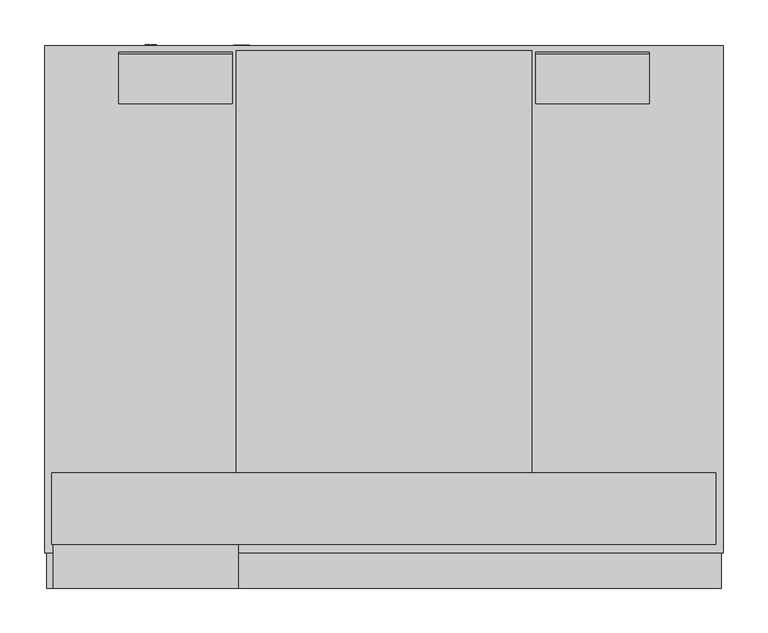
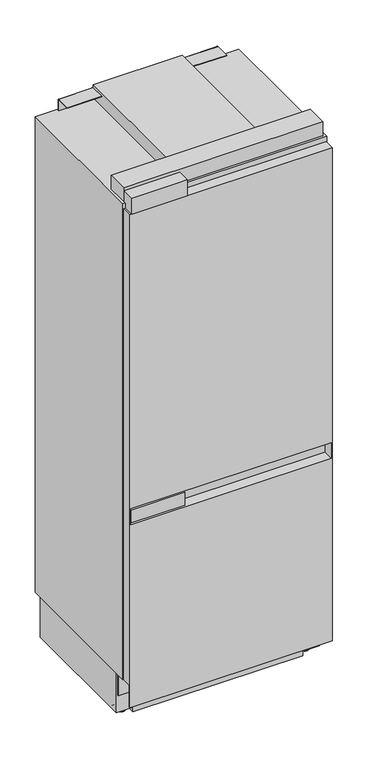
"""IFC4 building model written with IfcOpenShell, lengths in millimetres: proxy geometry, 12866550_EU2_KFMC3834_L : 38383410_EU2_12866550_KFMC3834_L."""

from ifc_helpers import new_model, si_unit, point, frame, frame_2d, origin, place, context, project, spatial, polyline, circle_curve, trimmed, segment, composite_curve, outline, extrude, faceted_brep, source, transform, mapped, element, save
from ifc_brep_helpers import plane_surface, cylinder_surface, advanced_brep


def specialty_equipment_1caa518f(model_context):
    return source(origin(), model_context, "Body", "SolidModel", [
        extrude(outline(polyline([(-172.460022, 19.5805006), (-372.460022, 19.5805006), (-372.460022, 59.5250826), (-172.460022, 59.5250826), (-172.460022, 19.5805006)])), frame((0.0, 0.0, 828.4), z_axis=(0.0, 0.0, 1.0), x_axis=(1.0, 0.0, 0.0)), (0.0, 0.0, 1.0), 50.4801375),
        extrude(outline(polyline([(-163.5444763, 19.5805006), (-371.4, 19.5805006), (-371.4, 69.0), (-163.5444763, 69.0), (-163.5444763, 19.5805006)])), frame((0.0, 0.0, 2048.9273907), z_axis=(0.0, 0.0, 1.0), x_axis=(1.0, 0.0, 0.0)), (0.0, 0.0, 1.0), 63.9078998),
        faceted_brep([(378.4, 19.5805006, 2048.9273907), (378.4, 19.5805006, 100.0958717), (378.4, 22.474204, 100.0958717), (378.4, 22.474204, 187.4499998), (378.4, 95.0, 187.4499998), (378.4, 95.0, 100.0958717), (378.4, 99.0001378, 100.0958717), (378.4, 99.0001378, 2048.9273907), (-378.4, 19.5805006, 2048.9273907), (-378.4, 99.0001378, 2048.9273907), (-378.4, 99.0001378, 100.0958717), (-378.4, 95.0, 100.0958717), (-378.4, 95.0, 187.4499998), (-378.4, 22.474204, 187.4499998), (-378.4, 22.474204, 100.0958717), (-378.4, 19.5805006, 100.0958717), (-374.4, 19.5805006, 884.8801375), (374.4, 19.5805006, 884.8801375), (374.4, 19.5805006, 822.4), (-374.4, 19.5805006, 822.4), (374.4, 93.7083842, 884.8801375), (-374.4, 93.7083842, 884.8801375), (-374.4, 93.7083842, 822.4), (374.4, 93.7083842, 822.4)], [[[0, 1, 2, 3, 4, 5, 6, 7]], [[8, 9, 10, 11, 12, 13, 14, 15]], [[1, 0, 8, 15], [16, 17, 18, 19]], [[1, 15, 14, 2]], [[10, 6, 5, 11]], [[7, 6, 10, 9]], [[0, 7, 9, 8]], [[13, 3, 2, 14]], [[4, 12, 11, 5]], [[3, 13, 12, 4]], [[20, 21, 22, 23]], [[21, 20, 17, 16]], [[22, 21, 16, 19]], [[23, 22, 19, 18]], [[20, 23, 18, 17]]]),
        extrude(outline(composite_curve([segment(trimmed(circle_curve(frame_2d((619.3046941, 2111.8999939)), 2.5), [point((619.3046941, 2114.3999939))], [point((621.8046941, 2111.8999939))], False, "CARTESIAN"), True, "CONTINUOUS"), segment(polyline([(621.8046941, 2111.8999939), (621.8046941, 2068.8999998), (619.3046941, 2068.8999998), (619.3046941, 2112.2000427), (563.7854458, 2112.2000427), (563.7854458, 2114.3999939), (619.3046941, 2114.3999939)]), True, "CONTINUOUS")], self_intersect=False)), frame((170.0666274, 0.0, 0.0), z_axis=(1.0, 0.0, 0.0), x_axis=(0.0, 1.0, 0.0)), (0.0, 0.0, 1.0), 127.807223),
        extrude(outline(composite_curve([segment(trimmed(circle_curve(frame_2d((619.3046941, 2111.8999939)), 2.5), [point((619.3046941, 2114.3999939))], [point((621.8046941, 2111.8999939))], False, "CARTESIAN"), True, "CONTINUOUS"), segment(polyline([(621.8046941, 2111.8999939), (621.8046941, 2068.8999998), (619.3046941, 2068.8999998), (619.3046941, 2112.2000427), (563.7854458, 2112.2000427), (563.7854458, 2114.3999939), (619.3046941, 2114.3999939)]), True, "CONTINUOUS")], self_intersect=False)), frame((-297.8738504, 0.0, 0.0), z_axis=(1.0, 0.0, 0.0), x_axis=(0.0, 1.0, 0.0)), (0.0, 0.0, 1.0), 127.807223),
        faceted_brep([(381.0, 628.6068181, 2068.8999998), (-381.0, 628.6068181, 2068.8999998), (-381.0, 59.5250826, 2068.8999998), (381.0, 59.5250826, 2068.8999998), (381.0, 628.6068181, 187.4499998), (381.0, 59.5250826, 187.4499998), (-381.0, 59.5250826, 187.4499998), (-381.0, 628.6068181, 187.4499998), (-332.0265198, 59.5250826, 1999.0), (332.0265198, 59.5250826, 1999.0), (332.0265198, 59.5250826, 920.0), (-332.0265198, 59.5250826, 920.0), (-332.0265198, 59.5250826, 777.0), (332.0265198, 59.5250826, 777.0), (332.0265198, 59.5250826, 250.0), (-332.0265198, 59.5250826, 250.0), (332.0265198, 551.4500008, 1999.0), (-332.0265198, 551.4500008, 1999.0), (-332.0265198, 551.4500008, 920.0), (332.0265198, 551.4500008, 920.0), (332.0265198, 535.9500008, 777.0), (-332.0265198, 535.9500008, 777.0), (-332.0265198, 535.9500008, 250.0), (332.0265198, 535.9500008, 250.0)], [[[0, 1, 2, 3]], [[4, 5, 6, 7]], [[0, 3, 5, 4]], [[3, 2, 6, 5], [8, 9, 10, 11], [12, 13, 14, 15]], [[2, 1, 7, 6]], [[1, 0, 4, 7]], [[16, 17, 18, 19]], [[17, 16, 9, 8]], [[18, 17, 8, 11]], [[19, 18, 11, 10]], [[16, 19, 10, 9]], [[20, 21, 22, 23]], [[21, 20, 13, 12]], [[22, 21, 12, 15]], [[23, 22, 15, 14]], [[20, 23, 14, 13]]]),
        advanced_brep(
        [(-379.5, 599.2160102, 187.4499998), (379.5, 599.2160102, 187.4499998), (379.5, 599.2160102, 27.500001), (317.3898346, 599.2160102, 27.500001), (317.3898346, 599.2160102, 10.4), (-317.3898346, 599.2160102, 10.4), (-317.3898346, 599.2160102, 27.500001), (-379.5, 599.2160102, 27.500001), (379.5, 104.7548719, 187.4499998), (-379.5, 104.7548719, 187.4499998), (-379.5, 104.7548719, 27.500001), (-317.3898346, 104.7548719, 27.500001), (-317.3898346, 104.7548719, 10.4), (317.3898346, 104.7548719, 10.4), (317.3898346, 104.7548719, 27.500001), (379.5, 104.7548719, 27.500001), (-337.4950732, 165.898232, 25.006546), (-337.4950732, 215.911324, 25.006546), (-337.4950732, 215.7866997, 27.500001), (-337.4950732, 166.0228563, 27.500001), (-337.4950732, 488.6286933, 25.006546), (-337.4950732, 538.6417854, 25.006546), (-337.4950732, 538.517161, 27.500001), (-337.4950732, 488.7533177, 27.500001), (-355.0, 215.911324, 25.006546), (-355.0, 165.898232, 25.006546), (-355.0, 166.0228563, 27.500001), (-355.0, 215.7866997, 27.500001), (-355.0, 538.6417854, 25.006546), (-355.0, 488.6286933, 25.006546), (-355.0, 488.7533177, 27.500001), (-355.0, 538.517161, 27.500001), (355.0, 165.898139, 25.006546), (355.0, 215.911231, 25.006546), (355.0, 215.7866067, 27.500001), (355.0, 166.0227633, 27.500001), (355.0, 488.6286933, 25.006546), (355.0, 538.6417854, 25.006546), (355.0, 538.517161, 27.500001), (355.0, 488.7533177, 27.500001), (337.4950732, 215.911231, 25.006546), (337.4950732, 165.898139, 25.006546), (337.4950732, 166.0227633, 27.500001), (337.4950732, 215.7866067, 27.500001), (337.4950732, 538.6417854, 25.006546), (337.4950732, 488.6286933, 25.006546), (337.4950732, 488.7533177, 27.500001), (337.4950732, 538.517161, 27.500001)],
        [
            (0, 1),
            (1, 2),
            (2, 3),
            (3, 4),
            (4, 5),
            (5, 6),
            (6, 7),
            (7, 0),
            (8, 9),
            (9, 10),
            (10, 11),
            (11, 12),
            (12, 13),
            (13, 14),
            (14, 15),
            (15, 8),
            (0, 9),
            (8, 1),
            (7, 10),
            (4, 13),
            (12, 5),
            (15, 2),
            (16, 17, circle_curve(frame((-337.4950732, 190.904778, 25.006546), z_axis=(1.0, 0.0, 0.0), x_axis=(0.0, 1.0, 0.0)), 25.006546)),
            (17, 18, circle_curve(frame((-337.4950732, 190.904778, 25.006546), z_axis=(1.0, 0.0, 0.0), x_axis=(0.0, 1.0, 0.0)), 25.006546)),
            (18, 19),
            (19, 16, circle_curve(frame((-337.4950732, 190.904778, 25.006546), z_axis=(1.0, 0.0, 0.0), x_axis=(0.0, 1.0, 0.0)), 25.006546)),
            (20, 21, circle_curve(frame((-337.4950732, 513.6352393, 25.006546), z_axis=(1.0, 0.0, 0.0), x_axis=(0.0, 1.0, 0.0)), 25.006546)),
            (21, 22, circle_curve(frame((-337.4950732, 513.6352393, 25.006546), z_axis=(1.0, 0.0, 0.0), x_axis=(0.0, 1.0, 0.0)), 25.006546)),
            (22, 23),
            (23, 20, circle_curve(frame((-337.4950732, 513.6352393, 25.006546), z_axis=(1.0, 0.0, 0.0), x_axis=(0.0, 1.0, 0.0)), 25.006546)),
            (24, 25, circle_curve(frame((-355.0, 190.904778, 25.006546), z_axis=(-1.0, 0.0, 0.0), x_axis=(0.0, 1.0, 0.0)), 25.006546)),
            (25, 26, circle_curve(frame((-355.0, 190.904778, 25.006546), z_axis=(-1.0, 0.0, 0.0), x_axis=(0.0, 1.0, 0.0)), 25.006546)),
            (26, 27),
            (27, 24, circle_curve(frame((-355.0, 190.904778, 25.006546), z_axis=(-1.0, 0.0, 0.0), x_axis=(0.0, 1.0, 0.0)), 25.006546)),
            (28, 29, circle_curve(frame((-355.0, 513.6352393, 25.006546), z_axis=(-1.0, 0.0, 0.0), x_axis=(0.0, 1.0, 0.0)), 25.006546)),
            (29, 30, circle_curve(frame((-355.0, 513.6352393, 25.006546), z_axis=(-1.0, 0.0, 0.0), x_axis=(0.0, 1.0, 0.0)), 25.006546)),
            (30, 31),
            (31, 28, circle_curve(frame((-355.0, 513.6352393, 25.006546), z_axis=(-1.0, 0.0, 0.0), x_axis=(0.0, 1.0, 0.0)), 25.006546)),
            (16, 25),
            (24, 17),
            (20, 29),
            (28, 21),
            (32, 33, circle_curve(frame((355.0, 190.904685, 25.006546), z_axis=(1.0, 0.0, 0.0), x_axis=(0.0, 1.0, 0.0)), 25.006546)),
            (33, 34, circle_curve(frame((355.0, 190.904685, 25.006546), z_axis=(1.0, 0.0, 0.0), x_axis=(0.0, 1.0, 0.0)), 25.006546)),
            (34, 35),
            (35, 32, circle_curve(frame((355.0, 190.904685, 25.006546), z_axis=(1.0, 0.0, 0.0), x_axis=(0.0, 1.0, 0.0)), 25.006546)),
            (36, 37, circle_curve(frame((355.0, 513.6352393, 25.006546), z_axis=(1.0, 0.0, 0.0), x_axis=(0.0, 1.0, 0.0)), 25.006546)),
            (37, 38, circle_curve(frame((355.0, 513.6352393, 25.006546), z_axis=(1.0, 0.0, 0.0), x_axis=(0.0, 1.0, 0.0)), 25.006546)),
            (38, 39),
            (39, 36, circle_curve(frame((355.0, 513.6352393, 25.006546), z_axis=(1.0, 0.0, 0.0), x_axis=(0.0, 1.0, 0.0)), 25.006546)),
            (40, 41, circle_curve(frame((337.4950732, 190.904685, 25.006546), z_axis=(-1.0, 0.0, 0.0), x_axis=(0.0, 1.0, 0.0)), 25.006546)),
            (41, 42, circle_curve(frame((337.4950732, 190.904685, 25.006546), z_axis=(-1.0, 0.0, 0.0), x_axis=(0.0, 1.0, 0.0)), 25.006546)),
            (42, 43),
            (43, 40, circle_curve(frame((337.4950732, 190.904685, 25.006546), z_axis=(-1.0, 0.0, 0.0), x_axis=(0.0, 1.0, 0.0)), 25.006546)),
            (44, 45, circle_curve(frame((337.4950732, 513.6352393, 25.006546), z_axis=(-1.0, 0.0, 0.0), x_axis=(0.0, 1.0, 0.0)), 25.006546)),
            (45, 46, circle_curve(frame((337.4950732, 513.6352393, 25.006546), z_axis=(-1.0, 0.0, 0.0), x_axis=(0.0, 1.0, 0.0)), 25.006546)),
            (46, 47),
            (47, 44, circle_curve(frame((337.4950732, 513.6352393, 25.006546), z_axis=(-1.0, 0.0, 0.0), x_axis=(0.0, 1.0, 0.0)), 25.006546)),
            (32, 41),
            (40, 33),
            (36, 45),
            (44, 37),
            (19, 26),
            (27, 18),
            (23, 30),
            (31, 22),
            (43, 34),
            (35, 42),
            (47, 38),
            (39, 46),
            (11, 6),
            (14, 3),
        ],
        [
            plane_surface(frame((-379.5, 599.2160102, 187.4499998), z_axis=(0.0, 1.0, 0.0), x_axis=(1.0, 0.0, 0.0))),
            plane_surface(frame((-379.5, 104.7548719, 187.4499998), z_axis=(0.0, -1.0, 0.0), x_axis=(-1.0, 0.0, 0.0))),
            plane_surface(frame((379.5, 104.7548719, 187.4499998), z_axis=(0.0, 0.0, 1.0), x_axis=(0.0, 1.0, 0.0))),
            plane_surface(frame((-379.5, 104.7548719, 187.4499998), z_axis=(-1.0, 0.0, 0.0), x_axis=(0.0, 1.0, 0.0))),
            plane_surface(frame((-379.5, 104.7548719, 10.4), z_axis=(0.0, 0.0, -1.0), x_axis=(0.0, 1.0, 0.0))),
            plane_surface(frame((379.5, 104.7548719, 10.4), z_axis=(1.0, 0.0, 0.0), x_axis=(0.0, 1.0, 0.0))),
            plane_surface(frame((-337.4950732, 215.911324, 25.006546), z_axis=(1.0, 0.0, 0.0), x_axis=(0.0, 0.0, 1.0))),
            plane_surface(frame((-355.0, 215.911324, 25.006546), z_axis=(-1.0, 0.0, 0.0), x_axis=(0.0, 0.0, -1.0))),
            cylinder_surface(frame((-355.0, 190.904778, 25.006546), z_axis=(1.0, 0.0, 0.0), x_axis=(0.0, 1.0, 0.0)), 25.006546),
            cylinder_surface(frame((0.0, 513.6352393, 25.006546), z_axis=(1.0, 0.0, 0.0), x_axis=(0.0, 1.0, 0.0)), 25.006546),
            plane_surface(frame((355.0, 215.911231, 25.006546), z_axis=(1.0, 0.0, 0.0), x_axis=(0.0, 0.0, 1.0))),
            plane_surface(frame((337.4950732, 215.911231, 25.006546), z_axis=(-1.0, 0.0, 0.0), x_axis=(0.0, 0.0, -1.0))),
            cylinder_surface(frame((355.0, 190.904685, 25.006546), z_axis=(-1.0, 0.0, 0.0), x_axis=(0.0, 1.0, 0.0)), 25.006546),
            cylinder_surface(frame((0.0, 513.6352393, 25.006546), z_axis=(-1.0, 0.0, 0.0), x_axis=(0.0, 1.0, 0.0)), 25.006546),
            plane_surface(frame((-317.3898346, -429.4357797, 0.0), z_axis=(-1.0, 0.0, 0.0), x_axis=(0.0, 1.0, 0.0))),
            plane_surface(frame((-317.3898346, -429.4357797, 27.500001), z_axis=(0.0, 0.0, -1.0), x_axis=(0.0, 1.0, 0.0))),
            plane_surface(frame((381.0, -429.4357797, 27.500001), z_axis=(0.0, 0.0, -1.0), x_axis=(0.0, 1.0, 0.0))),
            plane_surface(frame((317.3898346, -429.4357797, 27.500001), z_axis=(1.0, 0.0, 0.0), x_axis=(0.0, 1.0, 0.0))),
        ],
        [
            (0, [[1, 2, 3, 4, 5, 6, 7, 8]]),
            (1, [[9, 10, 11, 12, 13, 14, 15, 16]]),
            (2, [[-1, 17, -9, 18]]),
            (3, [[-17, -8, 19, -10]]),
            (4, [[-5, 20, -13, 21]]),
            (5, [[-18, -16, 22, -2]]),
            (6, [[23, 24, 25, 26]]),
            (6, [[27, 28, 29, 30]]),
            (7, [[31, 32, 33, 34]]),
            (7, [[35, 36, 37, 38]]),
            (8, [[-23, 39, -31, 40]]),
            (9, [[-27, 41, -35, 42]]),
            (10, [[43, 44, 45, 46]]),
            (10, [[47, 48, 49, 50]]),
            (11, [[51, 52, 53, 54]]),
            (11, [[55, 56, 57, 58]]),
            (12, [[-43, 59, -51, 60]]),
            (13, [[-47, 61, -55, 62]]),
            (8, [[-39, -26, 63, -32]]),
            (8, [[-40, -34, 64, -24]]),
            (9, [[-41, -30, 65, -36]]),
            (9, [[-42, -38, 66, -28]]),
            (12, [[-60, -54, 67, -44]]),
            (12, [[-59, -46, 68, -52]]),
            (13, [[-62, -58, 69, -48]]),
            (13, [[-61, -50, 70, -56]]),
            (14, [[71, -6, -21, -12]]),
            (15, [[-71, -11, -19, -7], [-25, -64, -33, -63], [-29, -66, -37, -65]]),
            (16, [[72, -3, -22, -15], [-45, -67, -53, -68], [-49, -69, -57, -70]]),
            (17, [[-72, -14, -20, -4]]),
        ],
    ),
        extrude(outline(composite_curve([segment(trimmed(circle_curve(frame_2d((-343.6, 136.7)), 15.0), [point((-358.6, 136.7))], [point((-328.6, 136.7))], False, "CARTESIAN"), True, "CONTINUOUS"), segment(trimmed(circle_curve(frame_2d((-343.6, 136.7)), 15.0), [point((-328.6, 136.7))], [point((-358.6, 136.7))], False, "CARTESIAN"), True, "CONTINUOUS")], self_intersect=False)), frame((0.0, 0.0, 10.4), z_axis=(0.0, 0.0, 1.0), x_axis=(1.0, 0.0, 0.0)), (0.0, 0.0, 1.0), 3.4999939),
        extrude(outline(composite_curve([segment(trimmed(circle_curve(frame_2d((343.6, 136.7)), 15.0), [point((328.6, 136.7))], [point((358.6, 136.7))], False, "CARTESIAN"), True, "CONTINUOUS"), segment(trimmed(circle_curve(frame_2d((343.6, 136.7)), 15.0), [point((358.6, 136.7))], [point((328.6, 136.7))], False, "CARTESIAN"), True, "CONTINUOUS")], self_intersect=False)), frame((0.0, 0.0, 10.4), z_axis=(0.0, 0.0, 1.0), x_axis=(1.0, 0.0, 0.0)), (0.0, 0.0, 1.0), 3.4999939),
        extrude(outline(composite_curve([segment(trimmed(circle_curve(frame_2d((343.6, 136.7)), 10.0), [point((333.6, 136.7))], [point((353.6, 136.7))], False, "CARTESIAN"), True, "CONTINUOUS"), segment(trimmed(circle_curve(frame_2d((343.6, 136.7)), 10.0), [point((353.6, 136.7))], [point((333.6, 136.7))], False, "CARTESIAN"), True, "CONTINUOUS")], self_intersect=False)), frame((0.0, 0.0, 13.8999939), z_axis=(0.0, 0.0, 1.0), x_axis=(1.0, 0.0, 0.0)), (0.0, 0.0, 1.0), 13.6000071),
        extrude(outline(composite_curve([segment(trimmed(circle_curve(frame_2d((-343.6, 136.7)), 10.0), [point((-353.6, 136.7))], [point((-333.6, 136.7))], False, "CARTESIAN"), True, "CONTINUOUS"), segment(trimmed(circle_curve(frame_2d((-343.6, 136.7)), 10.0), [point((-333.6, 136.7))], [point((-353.6, 136.7))], False, "CARTESIAN"), True, "CONTINUOUS")], self_intersect=False)), frame((0.0, 0.0, 13.8999939), z_axis=(0.0, 0.0, 1.0), x_axis=(1.0, 0.0, 0.0)), (0.0, 0.0, 1.0), 13.6000071),
        faceted_brep([(166.0, 623.4547186, 2122.8999939), (-166.0, 623.4547186, 2122.8999939), (-166.0, 149.0, 2122.8999939), (166.0, 149.0, 2122.8999939), (-166.0, 623.4547186, 2068.8999998), (166.0, 623.4547186, 2068.8999998), (166.0, 149.0, 2068.8999998), (372.1341127, 149.0, 2068.8999998), (372.1341127, 69.0, 2068.8999998), (-372.7652816, 69.0, 2068.8999998), (-372.7652816, 149.0, 2068.8999998), (-166.0, 149.0, 2068.8999998), (372.1341127, 69.0, 2124.5509637), (372.1341127, 149.0, 2124.5509637), (-372.7652816, 69.0, 2124.5509637), (-372.7652816, 149.0, 2124.5509637)], [[[0, 1, 2, 3]], [[4, 5, 6, 7, 8, 9, 10, 11]], [[5, 0, 3, 6]], [[1, 0, 5, 4]], [[1, 4, 11, 2]], [[12, 8, 7, 13]], [[14, 15, 10, 9]], [[8, 12, 14, 9]], [[13, 7, 6, 3, 2, 11, 10, 15]], [[12, 13, 15, 14]]]),
        extrude(outline(composite_curve([segment(trimmed(circle_curve(frame_2d((68.8909912, -261.5)), 8.0), [point((68.8909912, -269.5))], [point((68.8909912, -253.5))], False, "CARTESIAN"), True, "CONTINUOUS"), segment(trimmed(circle_curve(frame_2d((68.8909912, -261.5)), 8.0), [point((68.8909912, -253.5))], [point((68.8909912, -269.5))], False, "CARTESIAN"), True, "CONTINUOUS")], self_intersect=False)), frame((0.0, 599.2160102, 0.0), z_axis=(0.0, 1.0, 0.0), x_axis=(0.0, 0.0, 1.0)), (0.0, 0.0, 1.0), 30.0),
        extrude(outline(polyline([(64.7404068, -255.5981918), (72.7769116, -255.5981918), (72.7769116, -261.3744296), (71.7723485, -261.3744296), (71.7723485, -256.6027549), (69.3865111, -256.6027549), (69.3865111, -261.1232888), (68.381948, -261.1232888), (68.381948, -256.6027549), (65.7449699, -256.6027549), (65.7449699, -261.5), (64.7404068, -261.5), (64.7404068, -255.5981918)])), frame((0.0, 629.2160102, 0.0), z_axis=(0.0, 1.0, 0.0), x_axis=(0.0, 0.0, 1.0)), (0.0, 0.0, 1.0), 1.0),
        extrude(outline(polyline([(64.7404068, -263.0068447), (72.7769116, -263.0068447), (72.7769116, -264.0114078), (65.7449699, -264.0114078), (65.7449699, -268.0296602), (64.7404068, -268.0296602), (64.7404068, -263.0068447)])), frame((0.0, 629.2160102, 0.0), z_axis=(0.0, 1.0, 0.0), x_axis=(0.0, 0.0, 1.0)), (0.0, 0.0, 1.0), 1.0),
        extrude(outline(composite_curve([segment(trimmed(circle_curve(frame_2d((38.8909912, -159.5)), 8.0), [point((38.8909912, -167.5))], [point((38.8909912, -151.5))], False, "CARTESIAN"), True, "CONTINUOUS"), segment(trimmed(circle_curve(frame_2d((38.8909912, -159.5)), 8.0), [point((38.8909912, -151.5))], [point((38.8909912, -167.5))], False, "CARTESIAN"), True, "CONTINUOUS")], self_intersect=False)), frame((0.0, 599.2160102, 0.0), z_axis=(0.0, 1.0, 0.0), x_axis=(0.0, 0.0, 1.0)), (0.0, 0.0, 1.0), 30.0),
        extrude(outline(polyline([(35.5144425, -159.9875487), (43.5509473, -157.795953), (43.5509473, -158.8319087), (38.2691429, -160.1033089), (36.6386899, -160.4957164), (38.0807873, -160.9155923), (43.5509473, -162.5087666), (43.5509473, -164.001877), (39.5856699, -165.159479), (36.6386899, -166.0208134), (38.222054, -166.4014486), (43.5509473, -167.684621), (43.5509473, -168.7205767), (35.5144425, -166.527019), (35.5144425, -165.4537846), (41.7144804, -163.527064), (42.5797389, -163.2582649), (41.5378971, -162.9561111), (35.5144425, -161.2000877), (35.5144425, -159.9875487)])), frame((0.0, 628.6068181, 0.0), z_axis=(0.0, 1.0, 0.0), x_axis=(0.0, 0.0, 1.0)), (0.0, 0.0, 1.0), 1.0),
        extrude(outline(polyline([(35.5144425, -151.1407225), (43.5509473, -151.1407225), (43.5509473, -152.1452856), (39.6170625, -152.1452856), (43.5509473, -156.2655639), (43.5509473, -157.6703826), (40.2468765, -154.2113109), (35.5144425, -157.795953), (35.5144425, -156.5677177), (39.5680116, -153.4990913), (38.2769911, -152.1452856), (35.5144425, -152.1452856), (35.5144425, -151.1407225)])), frame((0.0, 628.6068181, 0.0), z_axis=(0.0, 1.0, 0.0), x_axis=(0.0, 0.0, 1.0)), (0.0, 0.0, 1.0), 1.0),
    ])


if __name__ == "__main__":
    model = new_model("IFC4")
    model_context = context("Model", 3, world=origin())
    ifc_project = project(units=[si_unit("LENGTHUNIT", "METRE", prefix="MILLI")], contexts=[model_context])
    site = spatial("IfcSite", under=ifc_project)
    building = spatial("IfcBuilding", under=site)
    placement = place(None, origin())
    specialty_equipment_shape = specialty_equipment_1caa518f(model_context)
    element("IfcBuildingElementProxy", 1, Name="12866550_EU2_KFMC3834_L : 38383410_EU2_12866550_KFMC3834_L", ObjectType="12866550_EU2_KFMC3834_L : 38383410_EU2_12866550_KFMC3834_L", at=placement, inside=building, context=model_context, shape_type="MappedRepresentation", body=[
        mapped(specialty_equipment_shape, transform((0.0, 0.0, 0.0), x_axis=(1.0, 0.0, 0.0), y_axis=(0.0, 1.0, 0.0), z_axis=(0.0, 0.0, 1.0))),
    ])
    save(model, "model.ifc")
